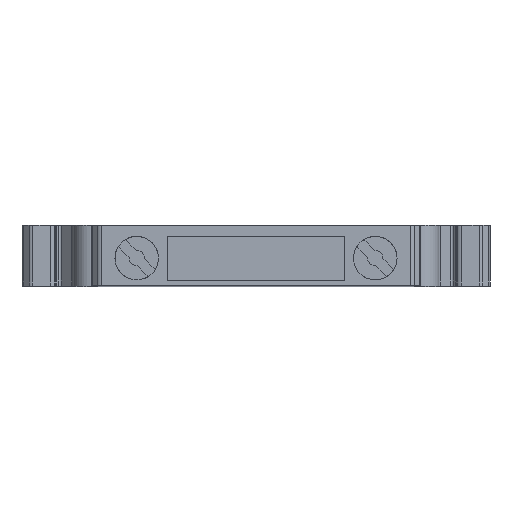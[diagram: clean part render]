
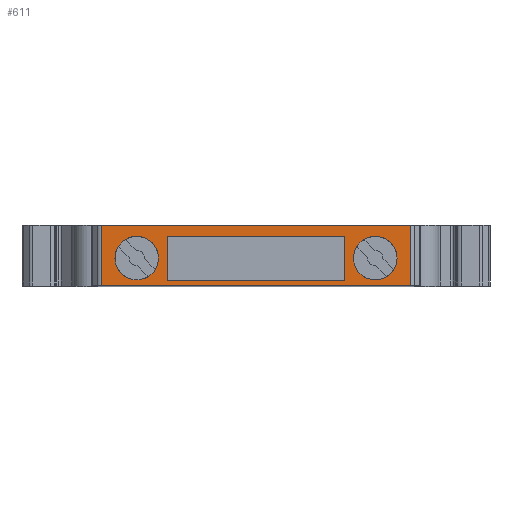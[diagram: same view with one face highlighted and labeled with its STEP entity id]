
A CAD part, top view. The second image highlights one B-rep face of the part: STEP entity #611.
In plain terms, the highlighted planar face has unit normal (0, 0, 1).
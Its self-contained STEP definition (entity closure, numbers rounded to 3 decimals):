
#611 = ADVANCED_FACE( '', ( #1248, #1249, #1250, #1251 ), #1252, .F. );
#1248 = FACE_BOUND( '', #1911, .T. );
#1249 = FACE_BOUND( '', #1912, .T. );
#1250 = FACE_OUTER_BOUND( '', #1913, .T. );
#1251 = FACE_BOUND( '', #1914, .T. );
#1252 = PLANE( '', #1915 );
#1911 = EDGE_LOOP( '', ( #3515 ) );
#1912 = EDGE_LOOP( '', ( #3516, #3517, #3518, #3519 ) );
#1913 = EDGE_LOOP( '', ( #3520, #3521, #3522, #3523 ) );
#1914 = EDGE_LOOP( '', ( #3524 ) );
#1915 = AXIS2_PLACEMENT_3D( '', #3525, #3526, #3527 );
#3515 = ORIENTED_EDGE( '', *, *, #4848, .F. );
#3516 = ORIENTED_EDGE( '', *, *, #4149, .T. );
#3517 = ORIENTED_EDGE( '', *, *, #4431, .F. );
#3518 = ORIENTED_EDGE( '', *, *, #4378, .T. );
#3519 = ORIENTED_EDGE( '', *, *, #4415, .T. );
#3520 = ORIENTED_EDGE( '', *, *, #4849, .T. );
#3521 = ORIENTED_EDGE( '', *, *, #4498, .F. );
#3522 = ORIENTED_EDGE( '', *, *, #4850, .F. );
#3523 = ORIENTED_EDGE( '', *, *, #4776, .T. );
#3524 = ORIENTED_EDGE( '', *, *, #4425, .F. );
#3525 = CARTESIAN_POINT( '', ( -26.15, 6., 39.8 ) );
#3526 = DIRECTION( '', ( 0., 0., -1. ) );
#3527 = DIRECTION( '', ( -1., 0., 0. ) );
#4149 = EDGE_CURVE( '', #5014, #5015, #5016, .T. );
#4378 = EDGE_CURVE( '', #5405, #5406, #5407, .T. );
#4415 = EDGE_CURVE( '', #5406, #5014, #5465, .T. );
#4425 = EDGE_CURVE( '', #5478, #5478, #5479, .T. );
#4431 = EDGE_CURVE( '', #5405, #5015, #5487, .T. );
#4498 = EDGE_CURVE( '', #5585, #5583, #5587, .F. );
#4776 = EDGE_CURVE( '', #5977, #5975, #5978, .T. );
#4848 = EDGE_CURVE( '', #6074, #6074, #6075, .T. );
#4849 = EDGE_CURVE( '', #5975, #5583, #6076, .T. );
#4850 = EDGE_CURVE( '', #5977, #5585, #6077, .T. );
#5014 = VERTEX_POINT( '', #6277 );
#5015 = VERTEX_POINT( '', #6278 );
#5016 = LINE( '', #6279, #6280 );
#5405 = VERTEX_POINT( '', #6806 );
#5406 = VERTEX_POINT( '', #6807 );
#5407 = LINE( '', #6808, #6809 );
#5465 = LINE( '', #6887, #6888 );
#5478 = VERTEX_POINT( '', #6905 );
#5479 = CIRCLE( '', #6906, 2.15 );
#5487 = LINE( '', #6916, #6917 );
#5583 = VERTEX_POINT( '', #7044 );
#5585 = VERTEX_POINT( '', #7046 );
#5587 = LINE( '', #7048, #7049 );
#5975 = VERTEX_POINT( '', #7568 );
#5977 = VERTEX_POINT( '', #7570 );
#5978 = LINE( '', #7571, #7572 );
#6074 = VERTEX_POINT( '', #7711 );
#6075 = CIRCLE( '', #7712, 2.15 );
#6076 = LINE( '', #7713, #7714 );
#6077 = LINE( '', #7715, #7716 );
#6277 = CARTESIAN_POINT( '', ( -26.15, 0.5, 39.8 ) );
#6278 = CARTESIAN_POINT( '', ( -26.15, 4.9, 39.8 ) );
#6279 = CARTESIAN_POINT( '', ( -26.15, 0.5, 39.8 ) );
#6280 = VECTOR( '', #7876, 1000. );
#6806 = CARTESIAN_POINT( '', ( -8.55, 4.9, 39.8 ) );
#6807 = CARTESIAN_POINT( '', ( -8.55, 0.5, 39.8 ) );
#6808 = CARTESIAN_POINT( '', ( -8.55, 0.5, 39.8 ) );
#6809 = VECTOR( '', #8146, 1000. );
#6887 = CARTESIAN_POINT( '', ( -26.112, 0.5, 39.8 ) );
#6888 = VECTOR( '', #8191, 1000. );
#6905 = CARTESIAN_POINT( '', ( -3.4, 2.75, 39.8 ) );
#6906 = AXIS2_PLACEMENT_3D( '', #8202, #8203, #8204 );
#6916 = CARTESIAN_POINT( '', ( -8.55, 4.9, 39.8 ) );
#6917 = VECTOR( '', #8213, 1000. );
#7044 = CARTESIAN_POINT( '', ( -2.057, 0., 39.8 ) );
#7046 = CARTESIAN_POINT( '', ( -2.057, 6., 39.8 ) );
#7048 = CARTESIAN_POINT( '', ( -2.057, 6., 39.8 ) );
#7049 = VECTOR( '', #8299, 1000. );
#7568 = CARTESIAN_POINT( '', ( -32.643, 0., 39.8 ) );
#7570 = CARTESIAN_POINT( '', ( -32.643, 6., 39.8 ) );
#7571 = CARTESIAN_POINT( '', ( -32.643, 6., 39.8 ) );
#7572 = VECTOR( '', #8635, 1000. );
#7711 = CARTESIAN_POINT( '', ( -27., 2.75, 39.8 ) );
#7712 = AXIS2_PLACEMENT_3D( '', #8703, #8704, #8705 );
#7713 = CARTESIAN_POINT( '', ( -26.15, 0., 39.8 ) );
#7714 = VECTOR( '', #8706, 1000. );
#7715 = CARTESIAN_POINT( '', ( -23.612, 6., 39.8 ) );
#7716 = VECTOR( '', #8707, 1000. );
#7876 = DIRECTION( '', ( 0., 1., 0. ) );
#8146 = DIRECTION( '', ( 0., -1., 0. ) );
#8191 = DIRECTION( '', ( -1., 0., 0. ) );
#8202 = CARTESIAN_POINT( '', ( -5.55, 2.75, 39.8 ) );
#8203 = DIRECTION( '', ( 0., 0., 1. ) );
#8204 = DIRECTION( '', ( 1., 0., 0. ) );
#8213 = DIRECTION( '', ( -1., 0., 0. ) );
#8299 = DIRECTION( '', ( 0., 1., 0. ) );
#8635 = DIRECTION( '', ( 0., -1., 0. ) );
#8703 = CARTESIAN_POINT( '', ( -29.15, 2.75, 39.8 ) );
#8704 = DIRECTION( '', ( 0., 0., 1. ) );
#8705 = DIRECTION( '', ( 1., 0., 0. ) );
#8706 = DIRECTION( '', ( 1., 0., 0. ) );
#8707 = DIRECTION( '', ( 1., 0., 0. ) );
